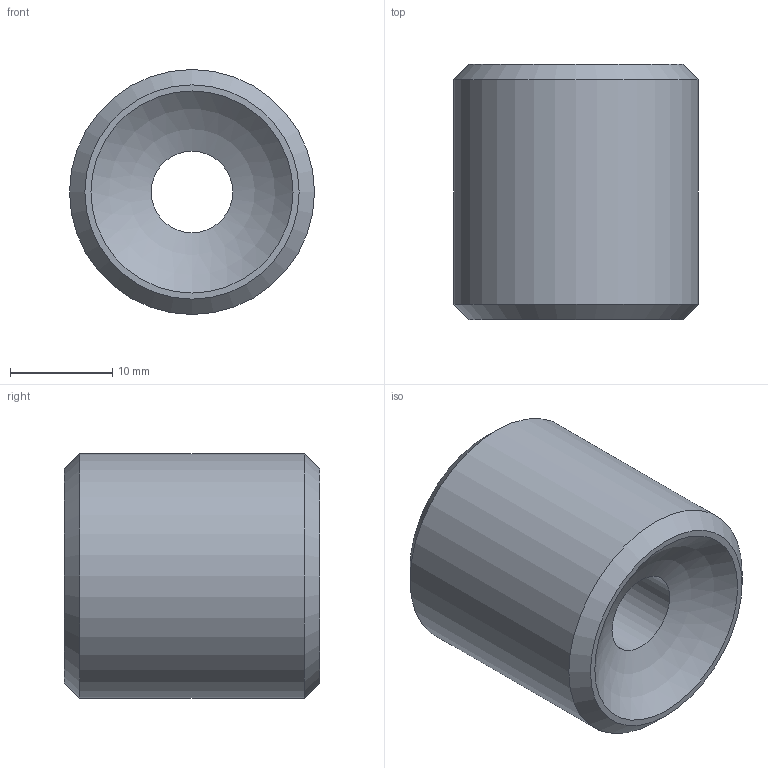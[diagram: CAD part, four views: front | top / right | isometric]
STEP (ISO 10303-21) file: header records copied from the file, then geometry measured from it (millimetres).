
FILE_DESCRIPTION(('CAx-IF Rec.Pracs.---Model Styling and Organization---1.5---2016-08-15','CAx-IF Rec.Pracs.---Geometric and Assembly Validation Properties---4.4---2016-08-17','CAx-IF Rec.Pracs.---User Defined Attributes---1.5---2016-08-15','CAx-IF Rec.Pracs.---External References---2.1---2005-01-19'),'2;1');
FILE_NAME('EZ-0249-M24x1.5-R14-25-Andruckschraube-Bestell-Nr.-0010976.stp','2023-03-13T16:38:32',('Unspecified'),('Unspecified'),'CAD Exchanger 3.17.0 (cadexchanger.com)','Unspecified','');
FILE_SCHEMA(('AP242_MANAGED_MODEL_BASED_3D_ENGINEERING_MIM_LF { 1 0 10303 442 1 1 4 }'));
Length unit declared in the file: millimetre
Products named in the file (1): EZ-0249-M24x1.5-R14-25-Andruckschraube-Bestell-Nr.-0010976
Bounding box: 24 x 25 x 24 mm (x, y, z)
Volume: 9124.2 mm3; surface area: 3218.6 mm2
Topology: 1 solids, 1 shells, 14 faces, 32 edges, 21 vertices
Faces by surface type: plane 9, cylinder 2, cone 2, sphere 1
Full cylindrical faces by diameter (mm): 8 x1, 24 x1
Entity records: 672 total; most frequent: CARTESIAN_POINT 71, ORIENTED_EDGE 64, DIRECTION 64, EDGE_CURVE 32, PROPERTY_DEFINITION 32, REPRESENTATION 32, PROPERTY_DEFINITION_REPRESENTATION 32, GENERAL_PROPERTY 29
